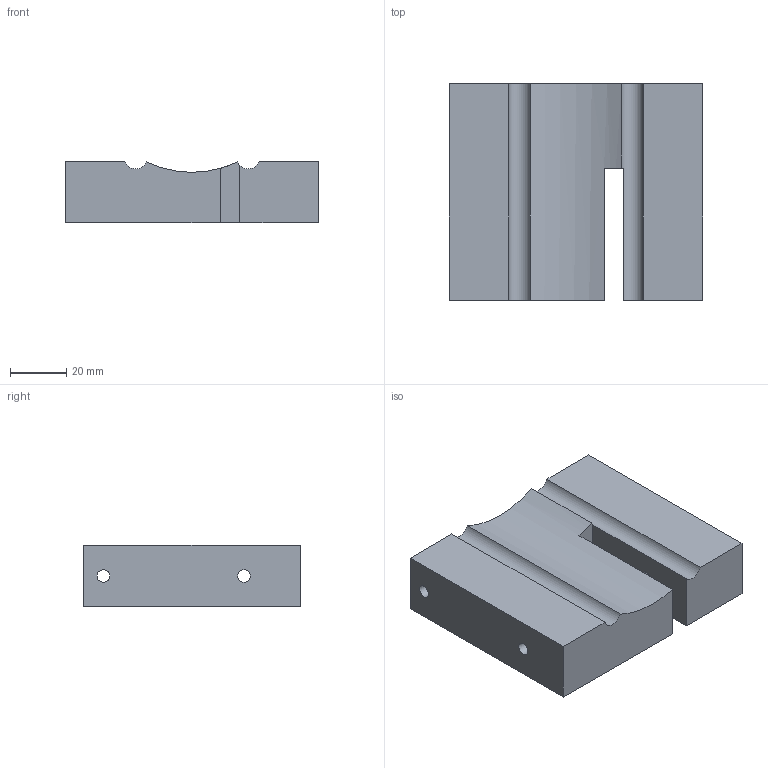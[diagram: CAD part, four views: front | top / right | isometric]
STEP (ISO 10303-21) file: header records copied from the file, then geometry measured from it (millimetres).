
FILE_DESCRIPTION(('Open CASCADE Model'),'2;1');
FILE_NAME('Open CASCADE Shape Model','2026-10-06T19:56:08',('Author'),( 'Open CASCADE'),'Open CASCADE STEP processor 7.9','Open CASCADE 7.9' ,'Unknown');
FILE_SCHEMA(('AUTOMOTIVE_DESIGN { 1 0 10303 214 1 1 1 1 }'));
Length unit declared in the file: millimetre
Products named in the file (1): Open CASCADE STEP translator 7.9 10
Bounding box: 90 x 77 x 22 mm (x, y, z)
Volume: 133568.4 mm3; surface area: 24916.2 mm2
Topology: 1 solids, 1 shells, 17 faces, 45 edges, 30 vertices
Faces by surface type: plane 11, cylinder 6
Full cylindrical faces by diameter (mm): 4.5 x3
Entity records: 1136 total; most frequent: CARTESIAN_POINT 241, DIRECTION 157, ORIENTED_EDGE 90, PCURVE 90, DEFINITIONAL_REPRESENTATION 90, LINE 85, VECTOR 85, EDGE_CURVE 45
